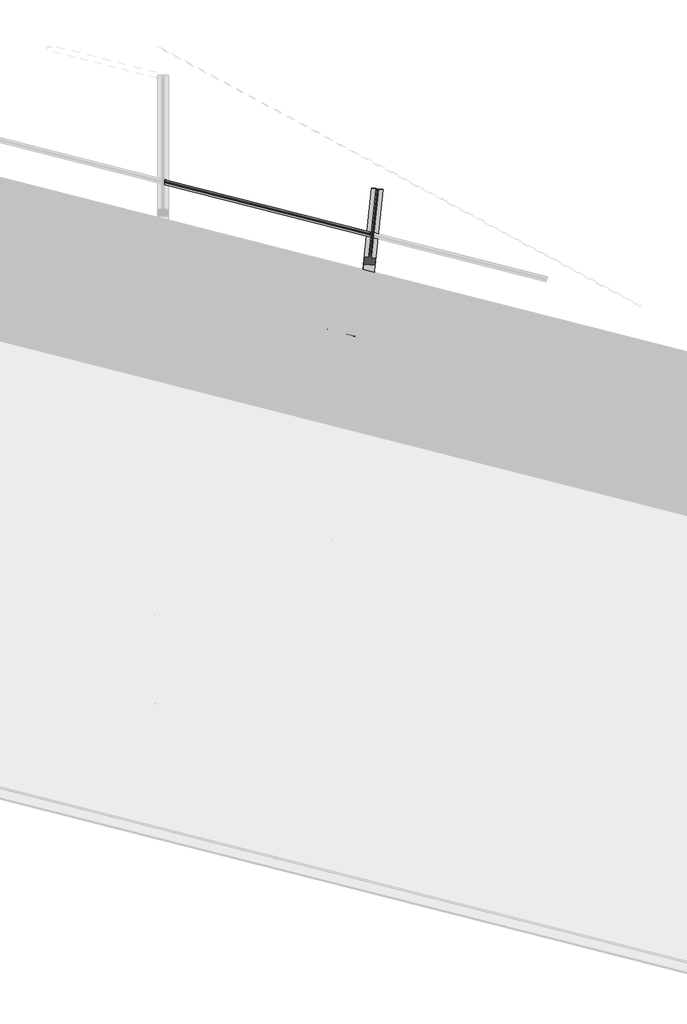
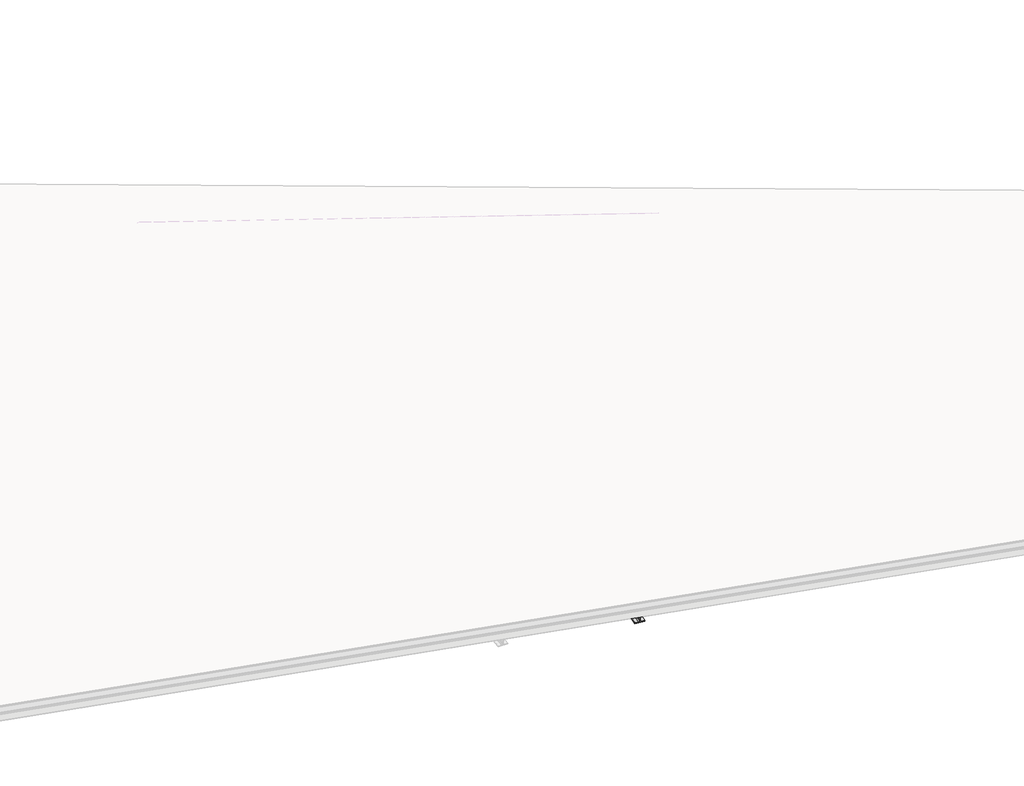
# One storey, part 8 of 10: 5 beams.
"""IFC4 building model written with IfcOpenShell, lengths in millimetres."""

from ifc_helpers import new_model, si_unit, frame, origin, place, context, project, spatial, polyline, circle_curve, ellipse_curve, transform, mapped, element, save
from ifc_brep_helpers import plane_surface, cylinder_surface, revolved_surface, advanced_brep
from components import ipe_ipe450_cd6ea38f

model = new_model("IFC4")

# Units and contexts
model_context = context("Model", 3, world=origin())
ifc_project = project(units=[si_unit("LENGTHUNIT", "METRE", prefix="MILLI")], contexts=[model_context])

# Site, building, storey
site = spatial("IfcSite", under=ifc_project)
building = spatial("IfcBuilding", under=site)
storey = spatial("IfcBuildingStorey", under=building, Name="2 Toiture batiment", Elevation=872910.0)

# Beams
placement = place(None, origin())
element("IfcBeam", 1, ObjectType="IPE : IPE160", at=placement, inside=storey, context=model_context, shape_type="AdvancedBrep", body=[
    advanced_brep(
    [(37439.4284051, 4556.8194676, 873609.2129973), (37439.4284051, 4526.6054058, 873605.6106379), (40569.0993399, 3729.8499225, 873602.4860067), (40572.1922082, 3759.2765981, 873606.0852782), (37439.4284051, 4564.9055074, 873619.2446716), (40573.0199372, 3767.1519137, 873616.1161261), (37529.7284051, 4525.92058, 873745.4026283), (37529.7284051, 4528.2674439, 873726.8803316), (37440.4284051, 4550.6817441, 873729.4934951), (37439.4284051, 4551.0584502, 873728.5306402), (40571.6243515, 3753.8738024, 873723.7172375), (40570.6319681, 3753.9986776, 873724.7266119), (40483.1615584, 3776.0860809, 873726.241838), (40482.9512846, 3774.08546, 873742.454161), (37529.7284051, 4515.570921, 873753.2362528), (40481.8918398, 3764.0055159, 873750.2888432), (37529.7284051, 4485.3568592, 873749.6338933), (40478.7989716, 3734.5788403, 873746.6895717), (37529.7284051, 4484.4262602, 873756.9785161), (40478.7037106, 3733.6724929, 873754.0342896), (37529.7284051, 4568.41111, 873766.9918542), (40487.3008359, 3815.468676, 873764.0390444), (37529.7284051, 4569.341709, 873759.6472314), (40487.3960969, 3816.3750233, 873756.6943265), (37529.7284051, 4539.1276472, 873756.044872), (40484.3032286, 3786.9483477, 873753.0950549), (37529.7284051, 4531.0416074, 873746.0131977), (40483.4754996, 3779.0730322, 873743.064207), (37529.7284051, 4533.3901615, 873727.4775619), (40483.6859965, 3781.0757761, 873726.8346797), (40571.1564062, 3758.9883727, 873725.3194536), (40572.1487896, 3758.8634976, 873724.3100792), (40573.5441522, 3772.1394858, 873616.7261721), (37439.4284051, 4570.0265348, 873619.855241), (37439.4284051, 4556.1811677, 873729.1278705), (37440.4284051, 4555.8044617, 873730.0907254), (37439.4284051, 4580.3761938, 873612.0216165), (40574.603597, 3782.21943, 873608.8914899), (37439.4284051, 4610.5902556, 873615.623976), (40577.6964652, 3811.6461056, 873612.4907615), (37439.4284051, 4611.5208546, 873608.2793531), (40577.7917262, 3812.5524529, 873605.1460435), (37439.4284051, 4527.5360048, 873598.2660151), (40569.1946009, 3730.7562699, 873595.1412887)],
    [
        (0, 1),
        (1, 2),
        (2, 3),
        (3, 0),
        (4, 0, ellipse_curve(frame((37439.4284051, 4555.687658, 873618.1456467), z_axis=(-1.0, 0.0, 0.0), x_axis=(0.0, -0.9999923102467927, -0.0039216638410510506)), 9.2870782, 9.0)),
        (3, 5, ellipse_curve(frame((40572.0763503, 3758.1742838, 873615.0180433), z_axis=(0.994521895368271, -0.10452846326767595, 0.0), x_axis=(-0.1045261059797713, -0.9944994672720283, -0.0067158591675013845)), 9.0948772, 9.0)),
        (5, 4),
        (6, 7),
        (7, 8),
        (8, 9, ellipse_curve(frame((37440.4284051, 4550.8074502, 873728.5013775), z_axis=(-0.24498715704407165, -0.9618363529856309, -0.1218692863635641), x_axis=(0.9687240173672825, -0.24795557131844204, 0.00958190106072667)), 1.0314828, 1.0)),
        (9, 4),
        (5, 10),
        (10, 11, ellipse_curve(frame((40570.6448396, 3754.1211418, 873723.7342053), z_axis=(-0.24498715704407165, -0.9618363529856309, -0.1218692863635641), x_axis=(0.9681123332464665, -0.24947586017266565, 0.022810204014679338)), 1.0104168, 1.0)),
        (11, 12),
        (12, 13),
        (13, 6),
        (14, 6, ellipse_curve(frame((37529.7284051, 4516.7027306, 873744.3036034), z_axis=(-1.0, 0.0, 0.0), x_axis=(0.0, -0.9999923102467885, -0.00392166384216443)), 9.2870782, 9.0)),
        (13, 15, ellipse_curve(frame((40482.0076977, 3765.1078302, 873741.3560782), z_axis=(0.9945218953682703, -0.10452846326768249, 0.0), x_axis=(-0.10452610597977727, -0.994499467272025, -0.006715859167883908)), 9.0948772, 9.0)),
        (15, 14),
        (16, 14),
        (15, 17),
        (17, 16),
        (18, 16),
        (17, 19),
        (19, 18),
        (20, 18),
        (19, 21),
        (21, 20),
        (22, 20),
        (21, 23),
        (23, 22),
        (24, 22),
        (23, 25),
        (25, 24),
        (26, 24, ellipse_curve(frame((37529.7284051, 4540.2594568, 873747.1122226), z_axis=(-1.0, 0.0, 0.0), x_axis=(0.0, -0.9999923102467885, -0.00392166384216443)), 9.2870782, 9.0)),
        (25, 27, ellipse_curve(frame((40484.4190865, 3788.050662, 873744.1622899), z_axis=(0.9945218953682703, -0.10452846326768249, 0.0), x_axis=(-0.10452610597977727, -0.994499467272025, -0.006715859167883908)), 9.0948772, 9.0)),
        (27, 26),
        (28, 26),
        (27, 29),
        (29, 30),
        (30, 31, ellipse_curve(frame((40571.1692777, 3759.1108369, 873724.327047), z_axis=(0.24498715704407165, 0.9618363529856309, 0.1218692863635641), x_axis=(0.9681123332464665, -0.24947586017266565, 0.022810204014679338)), 1.0104168, 1.0)),
        (31, 32),
        (32, 33),
        (33, 34),
        (34, 35, ellipse_curve(frame((37440.4284051, 4555.9301677, 873729.0986078), z_axis=(0.24498715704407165, 0.9618363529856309, 0.1218692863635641), x_axis=(0.9687240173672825, -0.24795557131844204, 0.00958190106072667)), 1.0314828, 1.0)),
        (35, 28),
        (36, 33, ellipse_curve(frame((37439.4284051, 4579.2443842, 873620.9542659), z_axis=(-1.0, 0.0, 0.0), x_axis=(0.0, -0.9999923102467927, -0.0039216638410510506)), 9.2870782, 9.0)),
        (32, 37, ellipse_curve(frame((40574.4877391, 3781.1171156, 873617.824255), z_axis=(0.994521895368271, -0.10452846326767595, 0.0), x_axis=(-0.1045261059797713, -0.9944994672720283, -0.0067158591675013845)), 9.0948772, 9.0)),
        (37, 36),
        (38, 36),
        (37, 39),
        (39, 38),
        (40, 38),
        (39, 41),
        (41, 40),
        (42, 40),
        (41, 43),
        (43, 42),
        (1, 42),
        (43, 2),
        (28, 7),
        (35, 8),
        (34, 9),
        (31, 10),
        (30, 11),
        (29, 12),
    ],
    [
        plane_surface(frame((37409.1575444, 4534.3117988, 873605.64086), z_axis=(-0.029135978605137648, -0.1183391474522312, 0.9925456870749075), x_axis=(0.9690884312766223, -0.24671172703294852, -0.0009675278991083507))),
        revolved_surface(polyline([(40575.55099624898, 3766.5075535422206, 873616.1135991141), (37439.41286689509, 4564.909463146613, 873619.2446870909)]), (37416.1224418, 4561.6209189, 873618.1689151), (0.9690884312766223, -0.24671172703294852, -0.0009675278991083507)),
        plane_surface(frame((37418.3273262, 4570.2774461, 873619.2657387), z_axis=(-0.24498715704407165, -0.9618363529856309, -0.1218692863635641), x_axis=(0.9690884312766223, -0.24671172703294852, -0.0009675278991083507))),
        revolved_surface(polyline([(40485.482343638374, 3773.441099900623, 873742.4516339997), (37529.712866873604, 4525.924535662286, 873745.4026437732)]), (37412.4163453, 4546.5681793, 873744.4207265), (0.9690884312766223, -0.24671172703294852, -0.0009675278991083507)),
        plane_surface(frame((37412.1541215, 4545.503127, 873753.3536377), z_axis=(0.029135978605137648, 0.1183391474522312, -0.9925456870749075), x_axis=(0.9690884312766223, -0.24671172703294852, -0.0009675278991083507))),
        plane_surface(frame((37404.9270003, 4517.1289546, 873749.7584938), z_axis=(-0.24498715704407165, -0.9618363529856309, -0.1218692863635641), x_axis=(0.9690884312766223, -0.24671172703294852, -0.0009675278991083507))),
        plane_surface(frame((37404.7113941, 4516.2532449, 873757.1033318), z_axis=(-0.029135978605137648, -0.1183391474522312, 0.9925456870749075), x_axis=(0.9690884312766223, -0.24671172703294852, -0.0009675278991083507))),
        plane_surface(frame((37424.800341, 4595.1238259, 873767.0966133), z_axis=(0.24498715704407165, 0.9618363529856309, 0.1218692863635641), x_axis=(0.9690884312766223, -0.24671172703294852, -0.0009675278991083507))),
        plane_surface(frame((37425.0159472, 4595.9995355, 873759.7517752), z_axis=(0.029135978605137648, 0.1183391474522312, -0.9925456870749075), x_axis=(0.9690884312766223, -0.24671172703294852, -0.0009675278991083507))),
        revolved_surface(polyline([(40487.89373246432, 3796.383931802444, 873745.257845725), (37529.712866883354, 4549.481261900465, 873748.2112630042)]), (37418.0510499, 4568.6904155, 873747.2237201), (0.9690884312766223, -0.24671172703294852, -0.0009675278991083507)),
        plane_surface(frame((37415.8461655, 4560.0338883, 873746.1268965), z_axis=(0.24498715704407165, 0.9618363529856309, 0.1218692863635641), x_axis=(0.9690884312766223, -0.24671172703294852, -0.0009675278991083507))),
        revolved_surface(polyline([(40577.96238505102, 3789.4503853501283, 873618.9198108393), (37439.41286688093, 4588.466189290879, 873622.0533063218)]), (37421.7571464, 4583.743155, 873620.9719087), (0.9690884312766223, -0.24671172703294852, -0.0009675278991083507)),
        plane_surface(frame((37422.0193702, 4584.8082073, 873612.0389975), z_axis=(-0.029135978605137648, -0.1183391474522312, 0.9925456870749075), x_axis=(0.9690884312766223, -0.24671172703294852, -0.0009675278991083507))),
        plane_surface(frame((37429.2464913, 4613.1823798, 873615.6341415), z_axis=(0.24498715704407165, 0.9618363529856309, 0.1218692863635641), x_axis=(0.9690884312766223, -0.24671172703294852, -0.0009675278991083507))),
        plane_surface(frame((37429.4620975, 4614.0580894, 873608.2893034), z_axis=(0.029135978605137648, 0.1183391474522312, -0.9925456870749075), x_axis=(0.9690884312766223, -0.24671172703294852, -0.0009675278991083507))),
        plane_surface(frame((37409.3731507, 4535.1875085, 873598.2960219), z_axis=(-0.24498715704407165, -0.9618363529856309, -0.1218692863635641), x_axis=(0.9690884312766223, -0.24671172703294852, -0.0009675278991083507))),
        plane_surface(frame((37529.7284051, 9873.6011188, 874405.0340378), z_axis=(-1.0000000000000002, 0.0, 0.0), x_axis=(0.0, -0.9932725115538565, -0.11580033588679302))),
        plane_surface(frame((37529.7284051, 9879.9238171, 874350.8013587), z_axis=(0.0, -0.11580033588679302, 0.9932725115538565), x_axis=(0.0, -0.9932725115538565, -0.11580033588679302))),
        cylinder_surface(frame((37440.4284051, 3683.1614087, 873627.3471606), z_axis=(0.0, -0.9932725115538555, -0.11580033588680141), x_axis=(0.0, -0.11580033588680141, 0.9932725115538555)), 1.0),
        plane_surface(frame((37439.4284051, 9880.0396174, 874349.8080862), z_axis=(-1.0000000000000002, 0.0, 0.0), x_axis=(0.0, -0.9932725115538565, -0.11580033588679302))),
        plane_surface(frame((41018.2134011, 8002.8847816, 873847.1205173), z_axis=(0.9945218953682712, -0.10452846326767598, 0.0), x_axis=(-0.10380628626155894, -0.9876508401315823, -0.11734595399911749))),
        cylinder_surface(frame((40430.8005706, 2423.5917995, 873565.6497603), z_axis=(-0.10380628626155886, -0.9876508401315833, -0.11734595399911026), x_axis=(0.9945218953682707, -0.10452846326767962, 0.0)), 1.0),
        plane_surface(frame((41012.5602553, 7958.6654649, 874224.296516), z_axis=(-0.012265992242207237, -0.11670312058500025, 0.9930910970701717), x_axis=(-0.10380628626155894, -0.9876508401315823, -0.11734595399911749))),
        plane_surface(frame((40923.7494501, 7967.9998566, 874224.296516), z_axis=(0.9945218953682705, -0.10452846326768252, 0.0), x_axis=(-0.10380628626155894, -0.9876508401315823, -0.11734595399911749))),
    ],
    [
        (0, [[1, 2, 3, 4]]),
        (1, [[5, -4, 6, 7]]),
        (2, [[8, 9, 10, 11, -7, 12, 13, 14, 15, 16]]),
        (3, [[17, -16, 18, 19]]),
        (4, [[20, -19, 21, 22]]),
        (5, [[23, -22, 24, 25]]),
        (6, [[26, -25, 27, 28]]),
        (7, [[29, -28, 30, 31]]),
        (8, [[32, -31, 33, 34]]),
        (9, [[35, -34, 36, 37]]),
        (10, [[38, -37, 39, 40, 41, 42, 43, 44, 45, 46]]),
        (11, [[47, -43, 48, 49]]),
        (12, [[50, -49, 51, 52]]),
        (13, [[53, -52, 54, 55]]),
        (14, [[56, -55, 57, 58]]),
        (15, [[59, -58, 60, -2]]),
        (16, [[61, -8, -17, -20, -23, -26, -29, -32, -35, -38]]),
        (17, [[-61, -46, 62, -9]]),
        (18, [[-62, -45, 63, -10]]),
        (19, [[-63, -44, -47, -50, -53, -56, -59, -1, -5, -11]]),
        (20, [[64, -12, -6, -3, -60, -57, -54, -51, -48, -42]]),
        (21, [[-64, -41, 65, -13]]),
        (22, [[-65, -40, 66, -14]]),
        (23, [[-66, -39, -36, -33, -30, -27, -24, -21, -18, -15]]),
    ],
),
])
element("IfcBeam", 2, ObjectType="IPE : IPE160", at=placement, inside=storey, context=model_context, shape_type="AdvancedBrep", body=[
    advanced_brep(
    [(40749.1610051, 5446.193803, 873806.4850068), (40749.3488969, 5447.0765683, 873799.1402521), (40749.7539391, 5448.6636193, 873799.3413613), (40749.7277494, 5448.4144408, 873806.7664034), (40752.5785321, 5475.5378266, 873810.0992882), (37439.4284051, 6319.0036687, 873826.7191398), (37439.4284051, 6288.7896069, 873823.087715), (40753.4062611, 5483.4131421, 873820.1346919), (37439.4284051, 6327.0897085, 873836.7586956), (40752.0119258, 5470.1469275, 873927.6331347), (40751.019592, 5470.2722741, 873928.6425652), (40663.5536729, 5492.4024035, 873930.1628677), (40663.3376086, 5490.3466885, 873946.8206833), (37529.7284051, 6288.1047811, 873962.5398986), (37529.7284051, 6291.9121301, 873932.4942439), (37440.4284051, 6314.3712005, 873935.1126269), (37439.4284051, 6314.7484216, 873934.1498321), (40662.2781638, 5480.2667443, 873954.649769), (37529.7284051, 6277.7551221, 873970.3636698), (40659.1852955, 5450.8400687, 873951.0338591), (37529.7284051, 6247.5410603, 873966.7322449), (40659.0900346, 5449.9337214, 873958.3781491), (37529.7284051, 6246.6104613, 873974.0760571), (40667.6871598, 5531.7299044, 873968.4291531), (37529.7284051, 6330.5953111, 873984.1701871), (40667.7824208, 5532.6362518, 873961.0848631), (37529.7284051, 6331.5259101, 873976.8263749), (40664.6895525, 5503.2095762, 873957.4689531), (37529.7284051, 6301.3118483, 873973.1949501), (40663.8618235, 5495.3342606, 873947.4335494), (37529.7284051, 6293.2258085, 873963.1553943), (40752.5363999, 5475.1369658, 873928.2260171), (40753.9304761, 5488.4007143, 873820.747558), (37439.4284051, 6332.2107359, 873837.3741914), (37439.4284051, 6319.8717545, 873934.7471341), (37440.4284051, 6319.4945334, 873935.7099289), (37529.7284051, 6297.035463, 873933.0915459), (40664.0781471, 5497.3924418, 873930.7557501), (40751.5440661, 5475.2623123, 873929.2354476), (40754.9899209, 5498.4806584, 873812.9184723), (37439.4284051, 6342.5603949, 873829.5504202), (40758.0827892, 5527.907334, 873816.5343822), (37439.4284051, 6372.7744567, 873833.181845), (40758.1780501, 5528.8136814, 873809.1900922), (37439.4284051, 6373.7050557, 873825.8380328), (37439.4284051, 6289.7202059, 873815.7439028)],
    [
        (0, 1),
        (1, 2),
        (2, 3),
        (3, 0),
        (3, 4),
        (4, 5),
        (5, 6),
        (6, 0),
        (4, 7, ellipse_curve(frame((40752.4626742, 5474.4355123, 873819.0315329), z_axis=(0.994521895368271, -0.10452846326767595, 0.0), x_axis=(-0.10446900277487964, -0.9939561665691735, -0.03372486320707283)), 9.0949804, 9.0)),
        (7, 8),
        (8, 5, ellipse_curve(frame((37439.4284051, 6317.8718591, 873835.6508033), z_axis=(-1.0, 0.0, 0.0), x_axis=(0.0, -0.9998059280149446, -0.019700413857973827)), 9.2871835, 9.0)),
        (7, 9),
        (9, 10, ellipse_curve(frame((40751.0324642, 5470.3947453, 873927.6501594), z_axis=(-0.2454470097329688, -0.9617192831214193, -0.12186790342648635), x_axis=(0.968000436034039, -0.24992258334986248, 0.022668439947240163)), 1.0104863, 1.0)),
        (10, 11),
        (11, 12),
        (12, 13),
        (13, 14),
        (14, 15),
        (15, 16, ellipse_curve(frame((37440.4284051, 6314.4969202, 873934.1205109), z_axis=(-0.2454470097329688, -0.9617192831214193, -0.12186790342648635), x_axis=(0.9686085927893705, -0.24840919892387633, 0.009500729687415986)), 1.0316067, 1.0)),
        (16, 8),
        (12, 17, ellipse_curve(frame((40662.3940217, 5481.3690587, 873945.7175244), z_axis=(0.9945218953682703, -0.10452846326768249, 0.0), x_axis=(-0.104469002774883, -0.99395616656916, -0.03372486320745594)), 9.0949804, 9.0)),
        (17, 18),
        (18, 13, ellipse_curve(frame((37529.7284051, 6278.8869317, 873961.4320063), z_axis=(-1.0, 0.0, 0.0), x_axis=(0.0, -0.9998059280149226, -0.019700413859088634)), 9.2871835, 9.0)),
        (17, 19),
        (19, 20),
        (20, 18),
        (19, 21),
        (21, 22),
        (22, 20),
        (21, 23),
        (23, 24),
        (24, 22),
        (23, 25),
        (25, 26),
        (26, 24),
        (25, 27),
        (27, 28),
        (28, 26),
        (27, 29, ellipse_curve(frame((40664.8054105, 5504.3118905, 873948.5367084), z_axis=(0.9945218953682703, -0.10452846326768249, 0.0), x_axis=(-0.104469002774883, -0.99395616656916, -0.03372486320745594)), 9.0949804, 9.0)),
        (29, 30),
        (30, 28, ellipse_curve(frame((37529.7284051, 6302.4436579, 873964.2632866), z_axis=(-1.0, 0.0, 0.0), x_axis=(0.0, -0.9998059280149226, -0.019700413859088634)), 9.2871835, 9.0)),
        (31, 32),
        (32, 33),
        (33, 34),
        (34, 35, ellipse_curve(frame((37440.4284051, 6319.6202531, 873934.7178129), z_axis=(0.2454470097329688, 0.9617192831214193, 0.12186790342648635), x_axis=(0.9686085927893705, -0.24840919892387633, 0.009500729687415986)), 1.0316067, 1.0)),
        (35, 36),
        (36, 30),
        (29, 37),
        (37, 38),
        (38, 31, ellipse_curve(frame((40751.5569384, 5475.3847836, 873928.2430418), z_axis=(0.2454470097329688, 0.9617192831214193, 0.12186790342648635), x_axis=(0.968000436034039, -0.24992258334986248, 0.022668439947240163)), 1.0104863, 1.0)),
        (32, 39, ellipse_curve(frame((40754.874063, 5497.3783441, 873821.8507169), z_axis=(0.994521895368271, -0.10452846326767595, 0.0), x_axis=(-0.10446900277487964, -0.9939561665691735, -0.03372486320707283)), 9.0949804, 9.0)),
        (39, 40),
        (40, 33, ellipse_curve(frame((37439.4284051, 6341.4285853, 873838.4820837), z_axis=(-1.0, 0.0, 0.0), x_axis=(0.0, -0.9998059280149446, -0.019700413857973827)), 9.2871835, 9.0)),
        (39, 41),
        (41, 42),
        (42, 40),
        (41, 43),
        (43, 44),
        (44, 42),
        (1, 45),
        (45, 44),
        (43, 2),
        (6, 45),
        (31, 9),
        (38, 10),
        (37, 11),
        (36, 14),
        (35, 15),
        (34, 16),
    ],
    [
        plane_surface(frame((40757.380962, 5476.9636505, 873883.5395901), z_axis=(0.9690774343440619, -0.24670892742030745, -0.004861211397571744), x_axis=(-0.02539077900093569, -0.11929260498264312, 0.992534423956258))),
        plane_surface(frame((37408.5572735, 6296.6488176, 873823.2425748), z_axis=(-0.025390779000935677, -0.11929260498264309, 0.9925344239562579), x_axis=(0.9690774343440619, -0.24670892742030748, -0.0048612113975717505))),
        revolved_surface(polyline([(40755.94213844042, 5482.767555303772, 873820.121971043), (37439.41661684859, 6327.092709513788, 873836.7587547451)]), (37415.5694432, 6323.945903, 873835.7704877), (0.9690774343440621, -0.24670892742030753, -0.004861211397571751)),
        plane_surface(frame((37417.7784663, 6332.6013766, 873836.8672989), z_axis=(-0.2454470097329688, -0.9617192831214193, -0.12186790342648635), x_axis=(0.9690774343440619, -0.24670892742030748, -0.0048612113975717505))),
        revolved_surface(polyline([(40665.87348594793, 5489.701101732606, 873946.8079625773), (37529.71661685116, 6288.107782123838, 873962.5399577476)]), (37412.3397361, 6308.7718837, 873962.0208665), (0.9690774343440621, -0.24670892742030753, -0.004861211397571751)),
        plane_surface(frame((37412.1112191, 6307.6982502, 873970.9536763), z_axis=(0.025390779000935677, 0.11929260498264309, -0.9925344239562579), x_axis=(0.9690774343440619, -0.24670892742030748, -0.0048612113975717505))),
        plane_surface(frame((37404.8705323, 6279.3275314, 873967.3585731), z_axis=(-0.2454470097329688, -0.9617192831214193, -0.12186790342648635), x_axis=(0.9690774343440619, -0.24670892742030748, -0.0048612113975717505))),
        plane_surface(frame((37404.6826406, 6278.4447661, 873974.7033279), z_axis=(-0.025390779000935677, -0.11929260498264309, 0.9925344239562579), x_axis=(0.9690774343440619, -0.24670892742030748, -0.0048612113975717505))),
        plane_surface(frame((37424.8092954, 6357.3057473, 873984.6964959), z_axis=(0.2454470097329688, 0.9617192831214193, 0.12186790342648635), x_axis=(0.9690774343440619, -0.24670892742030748, -0.0048612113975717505))),
        plane_surface(frame((37424.9971871, 6358.1885126, 873977.3517412), z_axis=(0.025390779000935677, 0.11929260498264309, -0.9925344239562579), x_axis=(0.9690774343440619, -0.24670892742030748, -0.0048612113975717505))),
        revolved_surface(polyline([(40668.28487475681, 5512.643933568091, 873949.6271465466), (37529.71661684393, 6311.664508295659, 873965.3712380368)]), (37417.9850174, 6330.8914272, 873964.8238282), (0.9690774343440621, -0.24670892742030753, -0.004861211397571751)),
        plane_surface(frame((37415.7759943, 6322.2359536, 873963.7270171), z_axis=(0.2454470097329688, 0.9617192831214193, 0.12186790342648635), x_axis=(0.9690774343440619, -0.24670892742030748, -0.0048612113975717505))),
        revolved_surface(polyline([(40758.353527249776, 5505.7103871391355, 873822.9411551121), (37439.41661684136, 6350.649435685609, 873839.5900351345)]), (37421.2147245, 6346.0654465, 873838.5734495), (0.9690774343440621, -0.24670892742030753, -0.004861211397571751)),
        plane_surface(frame((37421.4432415, 6347.13908, 873829.6406397), z_axis=(-0.025390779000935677, -0.11929260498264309, 0.9925344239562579), x_axis=(0.9690774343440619, -0.24670892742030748, -0.0048612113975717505))),
        plane_surface(frame((37428.6839282, 6375.5097988, 873833.2357428), z_axis=(0.2454470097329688, 0.9617192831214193, 0.12186790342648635), x_axis=(0.9690774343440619, -0.24670892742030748, -0.0048612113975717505))),
        plane_surface(frame((37428.87182, 6376.3925641, 873825.8909881), z_axis=(0.025390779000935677, 0.11929260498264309, -0.9925344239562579), x_axis=(0.9690774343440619, -0.24670892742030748, -0.0048612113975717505))),
        plane_surface(frame((37408.7451652, 6297.5315829, 873815.89782), z_axis=(-0.2454470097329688, -0.9617192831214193, -0.12186790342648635), x_axis=(0.9690774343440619, -0.24670892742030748, -0.0048612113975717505))),
        plane_surface(frame((41018.2134011, 8002.8847816, 873847.1205173), z_axis=(0.9945218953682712, -0.10452846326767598, 0.0), x_axis=(-0.10380628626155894, -0.9876508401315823, -0.11734595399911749))),
        cylinder_surface(frame((40430.8005706, 2423.5917995, 873565.6497603), z_axis=(-0.10380628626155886, -0.9876508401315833, -0.11734595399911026), x_axis=(0.9945218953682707, -0.10452846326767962, 0.0)), 1.0),
        plane_surface(frame((41012.5602553, 7958.6654649, 874224.296516), z_axis=(-0.012265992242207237, -0.11670312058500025, 0.9930910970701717), x_axis=(-0.10380628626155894, -0.9876508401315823, -0.11734595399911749))),
        plane_surface(frame((40923.7494501, 7967.9998566, 874224.296516), z_axis=(0.9945218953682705, -0.10452846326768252, 0.0), x_axis=(-0.10380628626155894, -0.9876508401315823, -0.11734595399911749))),
        plane_surface(frame((37529.7284051, 9873.6011188, 874405.0340378), z_axis=(-1.0000000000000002, 0.0, 0.0), x_axis=(0.0, -0.9932725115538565, -0.11580033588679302))),
        plane_surface(frame((37529.7284051, 9879.9238171, 874350.8013587), z_axis=(0.0, -0.11580033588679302, 0.9932725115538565), x_axis=(0.0, -0.9932725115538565, -0.11580033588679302))),
        cylinder_surface(frame((37440.4284051, 3683.1614087, 873627.3471606), z_axis=(0.0, -0.9932725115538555, -0.11580033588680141), x_axis=(0.0, -0.11580033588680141, 0.9932725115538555)), 1.0),
        plane_surface(frame((37439.4284051, 9880.0396174, 874349.8080862), z_axis=(-1.0000000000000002, 0.0, 0.0), x_axis=(0.0, -0.9932725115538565, -0.11580033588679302))),
    ],
    [
        (0, [[1, 2, 3, 4]]),
        (1, [[-4, 5, 6, 7, 8]]),
        (2, [[9, 10, 11, -6]]),
        (3, [[12, 13, 14, 15, 16, 17, 18, 19, 20, -10]]),
        (4, [[21, 22, 23, -16]]),
        (5, [[24, 25, 26, -22]]),
        (6, [[27, 28, 29, -25]]),
        (7, [[30, 31, 32, -28]]),
        (8, [[33, 34, 35, -31]]),
        (9, [[36, 37, 38, -34]]),
        (10, [[39, 40, 41, -37]]),
        (11, [[42, 43, 44, 45, 46, 47, -40, 48, 49, 50]]),
        (12, [[51, 52, 53, -43]]),
        (13, [[54, 55, 56, -52]]),
        (14, [[57, 58, 59, -55]]),
        (15, [[-2, 60, 61, -58, 62]]),
        (16, [[-1, -8, 63, -60]]),
        (17, [[64, -12, -9, -5, -3, -62, -57, -54, -51, -42]]),
        (18, [[-64, -50, 65, -13]]),
        (19, [[-65, -49, 66, -14]]),
        (20, [[-66, -48, -39, -36, -33, -30, -27, -24, -21, -15]]),
        (21, [[67, -17, -23, -26, -29, -32, -35, -38, -41, -47]]),
        (22, [[-67, -46, 68, -18]]),
        (23, [[-68, -45, 69, -19]]),
        (24, [[-69, -44, -53, -56, -59, -61, -63, -7, -11, -20]]),
    ],
),
])
element("IfcBeam", 3, ObjectType="IPE : IPE160", at=placement, inside=storey, context=model_context, shape_type="AdvancedBrep", body=[
    advanced_brep(
    [(37439.4284051, 8088.634096, 874033.2136943), (37439.4284051, 8058.4200342, 874029.5806032), (40930.6342222, 7169.6245551, 874011.2641914), (40933.7270904, 7199.0512307, 874014.881056), (37439.4284051, 8096.7201358, 874043.2537061), (40934.5548194, 7206.9265462, 874024.9167251), (37529.7284051, 8057.7352084, 874169.0133897), (37529.7284051, 8061.5627758, 874138.8083589), (37440.4284051, 8084.0244107, 874141.4270409), (37439.4284051, 8084.4016612, 874140.4642495), (40933.1605555, 7193.661011, 874132.4093533), (40932.1682245, 7193.7863846, 874133.418787), (40844.7025627, 7215.9189613, 874134.9393803), (40844.4861669, 7213.8600926, 874151.6227026), (37529.7284051, 8047.3855494, 874176.8366002), (40843.4267221, 7203.7801484, 874159.4514714), (37529.7284051, 8017.1714876, 874173.2035091), (40840.3338538, 7174.3534728, 874155.8346068), (37529.7284051, 8016.2408886, 874180.5472782), (40840.2385929, 7173.4471255, 874163.1788758), (37529.7284051, 8100.2257384, 874190.6460399), (40848.8357182, 7255.2433085, 874173.2325331), (37529.7284051, 8101.1563374, 874183.3022708), (40848.9309791, 7256.1496559, 874165.8882642), (37529.7284051, 8070.9422756, 874179.6691797), (40845.8381109, 7226.7229803, 874162.2713996), (37529.7284051, 8062.8562358, 874169.6291679), (40845.0103818, 7218.8476648, 874152.2357305), (37529.7284051, 8066.686144, 874139.405665), (40845.2270389, 7220.9090192, 874135.532265), (40932.6927008, 7198.7764426, 874134.0116717), (40933.6850317, 7198.651069, 874133.0022381), (40935.0790344, 7211.9141184, 874025.529753), (37439.4284051, 8101.8411632, 874043.8694843), (37439.4284051, 8089.5250294, 874141.0615556), (37440.4284051, 8089.1477789, 874142.024347), (37439.4284051, 8112.1908222, 874036.0462738), (40936.1384792, 7221.9940626, 874017.7009843), (37439.4284051, 8142.404884, 874039.6793649), (40939.2313475, 7251.4207382, 874021.3178488), (37439.4284051, 8143.335483, 874032.3355957), (40939.3266084, 7252.3270855, 874013.9735798), (37439.4284051, 8059.3506332, 874022.236834), (40930.7294831, 7170.5309025, 874003.9199225)],
    [
        (0, 1),
        (1, 2),
        (2, 3),
        (3, 0),
        (4, 0, ellipse_curve(frame((37439.4284051, 8087.5022864, 874042.1453054), z_axis=(-1.0, 0.0, 0.0), x_axis=(0.0, -0.9997877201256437, -0.020603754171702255)), 9.2871938, 9.0)),
        (3, 5, ellipse_curve(frame((40933.6112325, 7197.9489164, 874023.8132749), z_axis=(0.994521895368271, -0.10452846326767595, 0.0), x_axis=(-0.10446342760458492, -0.9939031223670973, -0.03527003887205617)), 9.0949905, 9.0)),
        (5, 4),
        (6, 7),
        (7, 8),
        (8, 9, ellipse_curve(frame((37440.4284051, 8084.1501311, 874140.4349249), z_axis=(-0.24547334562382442, -0.9617125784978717, -0.12186776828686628), x_axis=(0.9686019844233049, -0.24843515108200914, 0.009495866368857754)), 1.0316138, 1.0)),
        (9, 4),
        (5, 10),
        (10, 11, ellipse_curve(frame((40932.1810968, 7193.9088562, 874132.4263813), z_axis=(-0.24547334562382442, -0.9617125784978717, -0.12186776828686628), x_axis=(0.9679940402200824, -0.24994812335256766, 0.022659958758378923)), 1.0104903, 1.0)),
        (11, 12),
        (12, 13),
        (13, 6),
        (14, 6, ellipse_curve(frame((37529.7284051, 8048.517359, 874167.904989), z_axis=(-1.0, 0.0, 0.0), x_axis=(0.0, -0.9997877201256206, -0.02060375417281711)), 9.2871938, 9.0)),
        (13, 15, ellipse_curve(frame((40843.54258, 7204.8824628, 874150.5192524), z_axis=(0.9945218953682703, -0.10452846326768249, 0.0), x_axis=(-0.10446342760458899, -0.9939031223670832, -0.03527003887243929)), 9.0949905, 9.0)),
        (15, 14),
        (16, 14),
        (15, 17),
        (17, 16),
        (18, 16),
        (17, 19),
        (19, 18),
        (20, 18),
        (19, 21),
        (21, 20),
        (22, 20),
        (21, 23),
        (23, 22),
        (24, 22),
        (23, 25),
        (25, 24),
        (26, 24, ellipse_curve(frame((37529.7284051, 8072.0740852, 874170.7375685), z_axis=(-1.0, 0.0, 0.0), x_axis=(0.0, -0.9997877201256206, -0.02060375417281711)), 9.2871938, 9.0)),
        (25, 27, ellipse_curve(frame((40845.9539688, 7227.8252946, 874153.3391807), z_axis=(0.9945218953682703, -0.10452846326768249, 0.0), x_axis=(-0.10446342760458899, -0.9939031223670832, -0.03527003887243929)), 9.0949905, 9.0)),
        (27, 26),
        (28, 26),
        (27, 29),
        (29, 30),
        (30, 31, ellipse_curve(frame((40932.705573, 7198.8989142, 874133.019266), z_axis=(0.24547334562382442, 0.9617125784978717, 0.12186776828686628), x_axis=(0.9679940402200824, -0.24994812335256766, 0.022659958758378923)), 1.0104903, 1.0)),
        (31, 32),
        (32, 33),
        (33, 34),
        (34, 35, ellipse_curve(frame((37440.4284051, 8089.2734993, 874141.0322311), z_axis=(0.24547334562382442, 0.9617125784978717, 0.12186776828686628), x_axis=(0.9686019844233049, -0.24843515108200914, 0.009495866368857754)), 1.0316138, 1.0)),
        (35, 28),
        (36, 33, ellipse_curve(frame((37439.4284051, 8111.0590126, 874044.9778849), z_axis=(-1.0, 0.0, 0.0), x_axis=(0.0, -0.9997877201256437, -0.020603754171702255)), 9.2871938, 9.0)),
        (32, 37, ellipse_curve(frame((40936.0226213, 7220.8917482, 874026.6332032), z_axis=(0.994521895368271, -0.10452846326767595, 0.0), x_axis=(-0.10446342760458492, -0.9939031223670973, -0.03527003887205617)), 9.0949905, 9.0)),
        (37, 36),
        (38, 36),
        (37, 39),
        (39, 38),
        (40, 38),
        (39, 41),
        (41, 40),
        (42, 40),
        (41, 43),
        (43, 42),
        (1, 42),
        (43, 2),
        (28, 7),
        (35, 8),
        (34, 9),
        (31, 10),
        (30, 11),
        (29, 12),
    ],
    [
        plane_surface(frame((37408.5394197, 8066.2837902, 874029.7426605), z_axis=(-0.025176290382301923, -0.11934720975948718, 0.9925333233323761), x_axis=(0.9690763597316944, -0.24670865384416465, -0.005084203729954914))),
        revolved_surface(polyline([(40937.09100018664, 7206.280882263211, 874024.9034192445), (37439.416815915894, 8096.723086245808, 874043.2537669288)]), (37415.5542968, 8093.5801864, 874042.2705596), (0.9690763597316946, -0.2467086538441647, -0.005084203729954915)),
        plane_surface(frame((37417.7635569, 8102.2355996, 874043.3673695), z_axis=(-0.24547334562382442, -0.9617125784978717, -0.12186776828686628), x_axis=(0.9690763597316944, -0.24670865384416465, -0.005084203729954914))),
        revolved_surface(polyline([(40847.02234767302, 7213.214428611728, 874151.6093966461), (37529.71681589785, 8057.738158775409, 874169.013450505)]), (37412.3518726, 8078.3992213, 874168.5207983), (0.9690763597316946, -0.2467086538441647, -0.005084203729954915)),
        plane_surface(frame((37412.125286, 8077.3250964, 874177.4535982), z_axis=(0.025176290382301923, 0.11934720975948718, -0.9925333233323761), x_axis=(0.9690763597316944, -0.24670865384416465, -0.005084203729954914))),
        plane_surface(frame((37404.8838223, 8048.9545753, 874173.858499), z_axis=(-0.24547334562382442, -0.9617125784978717, -0.12186776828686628), x_axis=(0.9690763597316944, -0.24670865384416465, -0.005084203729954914))),
        plane_surface(frame((37404.6975178, 8048.071406, 874181.2032456), z_axis=(-0.025176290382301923, -0.11934720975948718, 0.9925333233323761), x_axis=(0.9690763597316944, -0.24670865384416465, -0.005084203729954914))),
        plane_surface(frame((37424.8263321, 8126.9318374, 874191.1964026), z_axis=(0.24547334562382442, 0.9617125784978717, 0.12186776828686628), x_axis=(0.9690763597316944, -0.24670865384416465, -0.005084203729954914))),
        plane_surface(frame((37425.0126367, 8127.8150068, 874183.851656), z_axis=(0.025176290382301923, 0.11934720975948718, -0.9925333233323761), x_axis=(0.9690763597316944, -0.24670865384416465, -0.005084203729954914))),
        revolved_surface(polyline([(40849.43373648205, 7236.157260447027, 874154.429324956), (37529.71681589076, 8081.29488494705, 874171.8460300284)]), (37417.9977596, 8100.5186106, 874171.323757), (0.9690763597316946, -0.2467086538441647, -0.005084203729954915)),
        plane_surface(frame((37415.7884995, 8091.8631974, 874170.2269471), z_axis=(0.24547334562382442, 0.9617125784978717, 0.12186776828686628), x_axis=(0.9690763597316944, -0.24670865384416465, -0.005084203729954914))),
        revolved_surface(polyline([(40939.502388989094, 7229.223714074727, 874027.7233474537), (37439.416815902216, 8120.279812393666, 874046.0863463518)]), (37421.2001837, 8115.6995757, 874045.0735182), (0.9690763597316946, -0.2467086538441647, -0.005084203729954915)),
        plane_surface(frame((37421.4267703, 8116.7737005, 874036.1407183), z_axis=(-0.025176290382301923, -0.11934720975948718, 0.9925333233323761), x_axis=(0.9690763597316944, -0.24670865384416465, -0.005084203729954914))),
        plane_surface(frame((37428.668234, 8145.1442216, 874039.7358175), z_axis=(0.24547334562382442, 0.9617125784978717, 0.12186776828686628), x_axis=(0.9690763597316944, -0.24670865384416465, -0.005084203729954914))),
        plane_surface(frame((37428.8545386, 8146.027391, 874032.3910709), z_axis=(0.025176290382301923, 0.11934720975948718, -0.9925333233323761), x_axis=(0.9690763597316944, -0.24670865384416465, -0.005084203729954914))),
        plane_surface(frame((37408.7257243, 8067.1669595, 874022.3979139), z_axis=(-0.24547334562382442, -0.9617125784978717, -0.12186776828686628), x_axis=(0.9690763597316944, -0.24670865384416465, -0.005084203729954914))),
        plane_surface(frame((37529.7284051, 9873.6011188, 874405.0340378), z_axis=(-1.0000000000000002, 0.0, 0.0), x_axis=(0.0, -0.9932725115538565, -0.11580033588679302))),
        plane_surface(frame((37529.7284051, 9879.9238171, 874350.8013587), z_axis=(0.0, -0.11580033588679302, 0.9932725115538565), x_axis=(0.0, -0.9932725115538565, -0.11580033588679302))),
        cylinder_surface(frame((37440.4284051, 3683.1614087, 873627.3471606), z_axis=(0.0, -0.9932725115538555, -0.11580033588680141), x_axis=(0.0, -0.11580033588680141, 0.9932725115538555)), 1.0),
        plane_surface(frame((37439.4284051, 9880.0396174, 874349.8080862), z_axis=(-1.0000000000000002, 0.0, 0.0), x_axis=(0.0, -0.9932725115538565, -0.11580033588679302))),
        plane_surface(frame((41018.2134011, 8002.8847816, 873847.1205173), z_axis=(0.9945218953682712, -0.10452846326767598, 0.0), x_axis=(-0.10380628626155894, -0.9876508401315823, -0.11734595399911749))),
        cylinder_surface(frame((40430.8005706, 2423.5917995, 873565.6497603), z_axis=(-0.10380628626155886, -0.9876508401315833, -0.11734595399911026), x_axis=(0.9945218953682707, -0.10452846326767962, 0.0)), 1.0),
        plane_surface(frame((41012.5602553, 7958.6654649, 874224.296516), z_axis=(-0.012265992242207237, -0.11670312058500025, 0.9930910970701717), x_axis=(-0.10380628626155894, -0.9876508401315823, -0.11734595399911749))),
        plane_surface(frame((40923.7494501, 7967.9998566, 874224.296516), z_axis=(0.9945218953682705, -0.10452846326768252, 0.0), x_axis=(-0.10380628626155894, -0.9876508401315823, -0.11734595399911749))),
    ],
    [
        (0, [[1, 2, 3, 4]]),
        (1, [[5, -4, 6, 7]]),
        (2, [[8, 9, 10, 11, -7, 12, 13, 14, 15, 16]]),
        (3, [[17, -16, 18, 19]]),
        (4, [[20, -19, 21, 22]]),
        (5, [[23, -22, 24, 25]]),
        (6, [[26, -25, 27, 28]]),
        (7, [[29, -28, 30, 31]]),
        (8, [[32, -31, 33, 34]]),
        (9, [[35, -34, 36, 37]]),
        (10, [[38, -37, 39, 40, 41, 42, 43, 44, 45, 46]]),
        (11, [[47, -43, 48, 49]]),
        (12, [[50, -49, 51, 52]]),
        (13, [[53, -52, 54, 55]]),
        (14, [[56, -55, 57, 58]]),
        (15, [[59, -58, 60, -2]]),
        (16, [[61, -8, -17, -20, -23, -26, -29, -32, -35, -38]]),
        (17, [[-61, -46, 62, -9]]),
        (18, [[-62, -45, 63, -10]]),
        (19, [[-63, -44, -47, -50, -53, -56, -59, -1, -5, -11]]),
        (20, [[64, -12, -6, -3, -60, -57, -54, -51, -48, -42]]),
        (21, [[-64, -41, 65, -13]]),
        (22, [[-65, -40, 66, -14]]),
        (23, [[-66, -39, -36, -33, -30, -27, -24, -21, -18, -15]]),
    ],
),
])
element("IfcBeam", 4, ObjectType="IPE : IPE160", at=placement, inside=storey, context=model_context, shape_type="AdvancedBrep", body=[
    advanced_brep(
    [(40447.4522038, 2072.200813, 873409.0341003), (40447.6746967, 2073.0747695, 873401.6892588), (40442.5016731, 2052.7550329, 873399.1147272), (40442.5016731, 2052.7550329, 873406.5702999), (43472.4754257, 1218.1018237, 873399.0408142), (43472.6979186, 1218.9757802, 873391.6959727), (43492.7774956, 1297.8487465, 873401.6892588), (43492.5550027, 1296.9747901, 873409.0341003), (43485.3312524, 1268.5997595, 873405.4389547), (43482.8567969, 1258.8800505, 873413.275046), (43479.0323241, 1243.8574473, 873539.5269165), (43480.9655806, 1251.4513163, 873549.5566559), (43488.1893308, 1279.8263468, 873553.1518016), (43487.9668379, 1278.9523904, 873560.4966431), (43467.887261, 1200.079424, 873550.5033569), (43468.1097539, 1200.9533805, 873543.1585154), (43475.3335041, 1229.3284111, 873546.753661), (43477.8079596, 1239.0481201, 873538.9175698), (43481.6324324, 1254.0707232, 873412.6656993), (43479.6991759, 1246.4768543, 873402.6359598), (40439.1169992, 2020.5520117, 873402.6359598), (40436.024131, 1991.1253361, 873399.0408142), (40439.9447282, 2028.4273272, 873412.6656993), (40526.738464, 1990.3350289, 873538.9175698), (40527.0195491, 1993.0093755, 873517.2452469), (40439.5480237, 2015.0861633, 873518.7592117), (40438.5813706, 2015.455846, 873517.7837585), (40525.6790191, 1980.2550847, 873546.753661), (40522.5861509, 1950.8284091, 873543.1585154), (40522.49089, 1949.9220617, 873550.5033569), (40531.0880152, 2031.7182448, 873560.4966431), (40531.1832762, 2032.6245921, 873553.1518016), (40528.0904079, 2003.1979165, 873549.5566559), (40527.2626789, 1995.322601, 873539.5269165), (40440.4689432, 2033.4148994, 873413.275046), (40439.1057998, 2020.4454561, 873518.3765901), (40440.0724528, 2020.0757734, 873519.3520432), (40527.5439783, 1997.9989856, 873517.8380784), (40441.528388, 2043.4948436, 873405.4389547), (40436.1193919, 1992.0316835, 873391.6959727)],
    [
        (0, 1),
        (1, 2),
        (2, 3),
        (3, 0),
        (4, 5),
        (5, 6),
        (6, 7),
        (7, 8),
        (8, 9, circle_curve(frame((43485.0606529, 1267.5368394, 873414.3718701), z_axis=(-0.9690888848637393, 0.24671184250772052, 0.0), x_axis=(0.24487288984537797, 0.9618654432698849, 0.12186934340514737)), 9.0)),
        (9, 10),
        (10, 11, circle_curve(frame((43481.2361801, 1252.5142363, 873540.6237406), z_axis=(-0.9690888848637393, 0.24671184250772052, 0.0), x_axis=(0.24487288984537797, 0.9618654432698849, 0.12186934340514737)), 9.0)),
        (11, 12),
        (12, 13),
        (13, 14),
        (14, 15),
        (15, 16),
        (16, 17, circle_curve(frame((43475.6041036, 1230.3913311, 873537.8207457), z_axis=(-0.9690888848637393, 0.24671184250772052, 0.0), x_axis=(0.24487288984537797, 0.9618654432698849, 0.12186934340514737)), 9.0)),
        (17, 18),
        (18, 19, circle_curve(frame((43479.4285764, 1245.4139343, 873411.5688752), z_axis=(-0.9690888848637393, 0.24671184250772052, 0.0), x_axis=(0.24487288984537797, 0.9618654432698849, 0.12186934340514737)), 9.0)),
        (19, 4),
        (19, 20),
        (20, 21),
        (21, 4),
        (18, 22),
        (22, 20, ellipse_curve(frame((40439.0011413, 2019.4496974, 873411.5688752), z_axis=(-0.9945218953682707, 0.10452846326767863, 0.0), x_axis=(-0.10452846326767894, -0.9945218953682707, 0.0)), 9.0948729, 9.0)),
        (17, 23),
        (23, 24),
        (24, 25),
        (25, 26, ellipse_curve(frame((40439.560895, 2015.2086255, 873517.7668048), z_axis=(-0.24487288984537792, -0.9618654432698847, -0.12186934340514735), x_axis=(0.9681402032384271, -0.24936462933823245, 0.02284356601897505)), 1.0103996, 1.0)),
        (26, 22),
        (16, 27),
        (27, 23, ellipse_curve(frame((40525.7948771, 1981.357399, 873537.8207457), z_axis=(-0.9945218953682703, 0.10452846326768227, 0.0), x_axis=(-0.10452846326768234, -0.9945218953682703, 0.0)), 9.0948729, 9.0)),
        (15, 28),
        (28, 27),
        (14, 29),
        (29, 28),
        (13, 30),
        (30, 29),
        (12, 31),
        (31, 30),
        (11, 32),
        (32, 31),
        (10, 33),
        (33, 32, ellipse_curve(frame((40528.2062658, 2004.3002308, 873540.6237406), z_axis=(-0.9945218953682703, 0.10452846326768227, 0.0), x_axis=(-0.10452846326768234, -0.9945218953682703, 0.0)), 9.0948729, 9.0)),
        (9, 34),
        (34, 35),
        (35, 36, ellipse_curve(frame((40440.0853241, 2020.1982356, 873518.3596364), z_axis=(0.24487288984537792, 0.9618654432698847, 0.12186934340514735), x_axis=(0.9681402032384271, -0.24936462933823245, 0.02284356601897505)), 1.0103996, 1.0)),
        (36, 37),
        (37, 33),
        (8, 38),
        (38, 34, ellipse_curve(frame((40441.4125301, 2042.3925292, 873414.3718701), z_axis=(-0.9945218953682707, 0.10452846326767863, 0.0), x_axis=(-0.10452846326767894, -0.9945218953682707, 0.0)), 9.0948729, 9.0)),
        (7, 0),
        (3, 38),
        (6, 1),
        (5, 39),
        (39, 2),
        (21, 39),
        (37, 24),
        (36, 25),
        (35, 26),
    ],
    [
        plane_surface(frame((40435.2295794, 2024.1901083, 873476.0963079), z_axis=(-0.9690888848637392, 0.2467118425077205, 0.0), x_axis=(-0.030066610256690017, -0.11810222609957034, 0.992546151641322))),
        plane_surface(frame((43480.3323783, 1248.9640853, 873476.0963079), z_axis=(0.9690888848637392, -0.2467118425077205, 0.0), x_axis=(-0.030066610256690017, -0.11810222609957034, 0.992546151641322))),
        plane_surface(frame((40427.3726268, 1993.3278467, 873399.0408142), z_axis=(-0.030066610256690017, -0.11810222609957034, 0.9925461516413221), x_axis=(0.9690888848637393, -0.24671184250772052, 0.0))),
        revolved_surface(polyline([(43481.63243240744, 1254.070723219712, 873412.6656992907), (40439.93526381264, 2028.4297366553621, 873412.6656992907)]), (40434.3257776, 2020.6399572, 873411.5688752), (0.9690888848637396, -0.24671184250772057, 0.0)),
        plane_surface(frame((40436.5296336, 2029.2967462, 873412.6656993), z_axis=(-0.24487288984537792, -0.9618654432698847, -0.12186934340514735), x_axis=(0.9690888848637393, -0.24671184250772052, 0.0))),
        revolved_surface(polyline([(43477.80795961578, 1239.048120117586, 873538.9175697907), (40526.72899963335, 1990.3374383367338, 873538.9175697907)]), (40430.5013048, 2005.6173541, 873537.8207457), (0.9690888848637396, -0.24671184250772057, 0.0)),
        plane_surface(frame((40430.2307053, 2004.554434, 873546.753661), z_axis=(0.030066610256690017, 0.11810222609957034, -0.9925461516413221), x_axis=(0.9690888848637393, -0.24671184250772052, 0.0))),
        plane_surface(frame((40423.006955, 1976.1794035, 873543.1585154), z_axis=(-0.24487288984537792, -0.9618654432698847, -0.12186934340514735), x_axis=(0.9690888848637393, -0.24671184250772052, 0.0))),
        plane_surface(frame((40422.7844621, 1975.305447, 873550.5033569), z_axis=(-0.030066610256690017, -0.11810222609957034, 0.9925461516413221), x_axis=(0.9690888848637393, -0.24671184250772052, 0.0))),
        plane_surface(frame((40442.8640391, 2054.1784133, 873560.4966431), z_axis=(0.24487288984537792, 0.9618654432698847, 0.12186934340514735), x_axis=(0.9690888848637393, -0.24671184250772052, 0.0))),
        plane_surface(frame((40443.086532, 2055.0523698, 873553.1518016), z_axis=(0.030066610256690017, 0.11810222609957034, -0.9925461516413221), x_axis=(0.9690888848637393, -0.24671184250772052, 0.0))),
        revolved_surface(polyline([(43483.4400361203, 1261.1710252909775, 873541.7205646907), (40529.140388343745, 2013.2802701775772, 873541.7205646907)]), (40436.1333812, 2027.7402593, 873540.6237406), (0.9690888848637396, -0.24671184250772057, 0.0)),
        plane_surface(frame((40433.9295252, 2019.0834703, 873539.5269165), z_axis=(0.24487288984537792, 0.9618654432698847, 0.12186934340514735), x_axis=(0.9690888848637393, -0.24671184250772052, 0.0))),
        revolved_surface(polyline([(43487.26450890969, 1276.1936283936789, 873415.4686941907), (40442.34665261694, 2051.372568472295, 873415.4686941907)]), (40439.957854, 2042.7628624, 873414.3718701), (0.9690888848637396, -0.24671184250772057, 0.0)),
        plane_surface(frame((40440.2284535, 2043.8257825, 873405.4389547), z_axis=(-0.030066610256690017, -0.11810222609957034, 0.9925461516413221), x_axis=(0.9690888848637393, -0.24671184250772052, 0.0))),
        plane_surface(frame((40447.4522038, 2072.200813, 873409.0341003), z_axis=(0.24487288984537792, 0.9618654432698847, 0.12186934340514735), x_axis=(0.9690888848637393, -0.24671184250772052, 0.0))),
        plane_surface(frame((40447.6746967, 2073.0747695, 873401.6892588), z_axis=(0.030066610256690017, 0.11810222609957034, -0.9925461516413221), x_axis=(0.9690888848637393, -0.24671184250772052, 0.0))),
        plane_surface(frame((40427.5951197, 1994.2018032, 873391.6959727), z_axis=(-0.24487288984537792, -0.9618654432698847, -0.12186934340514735), x_axis=(0.9690888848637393, -0.24671184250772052, 0.0))),
        plane_surface(frame((41151.8197628, 7937.5863197, 874278.5192899), z_axis=(-0.9945218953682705, 0.1045284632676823, 0.0), x_axis=(-0.10380628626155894, -0.9876508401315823, -0.11734595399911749))),
        plane_surface(frame((41152.489486, 7943.9583101, 874224.296516), z_axis=(-0.012265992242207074, -0.11670312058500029, 0.9930910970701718), x_axis=(-0.10380628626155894, -0.9876508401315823, -0.11734595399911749))),
        cylinder_surface(frame((40481.918996, 2418.2190365, 873565.6497603), z_axis=(-0.10380628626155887, -0.9876508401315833, -0.11734595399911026), x_axis=(-0.012265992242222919, -0.11670312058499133, 0.9930910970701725)), 1.0),
        plane_surface(frame((41062.6964248, 7953.5139334, 874223.3034249), z_axis=(-0.994521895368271, 0.10452846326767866, 0.0), x_axis=(-0.10380628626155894, -0.9876508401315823, -0.11734595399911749))),
    ],
    [
        (0, [[1, 2, 3, 4]]),
        (1, [[5, 6, 7, 8, 9, 10, 11, 12, 13, 14, 15, 16, 17, 18, 19, 20]]),
        (2, [[-20, 21, 22, 23]]),
        (3, [[-19, 24, 25, -21]]),
        (4, [[-18, 26, 27, 28, 29, 30, -24]]),
        (5, [[-17, 31, 32, -26]]),
        (6, [[-16, 33, 34, -31]]),
        (7, [[-15, 35, 36, -33]]),
        (8, [[-14, 37, 38, -35]]),
        (9, [[-13, 39, 40, -37]]),
        (10, [[-12, 41, 42, -39]]),
        (11, [[-11, 43, 44, -41]]),
        (12, [[-10, 45, 46, 47, 48, 49, -43]]),
        (13, [[-9, 50, 51, -45]]),
        (14, [[-8, 52, -4, 53, -50]]),
        (15, [[-1, -52, -7, 54]]),
        (16, [[-6, 55, 56, -2, -54]]),
        (17, [[-5, -23, 57, -55]]),
        (18, [[58, -27, -32, -34, -36, -38, -40, -42, -44, -49]]),
        (19, [[-58, -48, 59, -28]]),
        (20, [[-59, -47, 60, -29]]),
        (21, [[-60, -46, -51, -53, -3, -56, -57, -22, -25, -30]]),
    ],
),
])
ipe_ipe450_shape = ipe_ipe450_cd6ea38f(model_context)
element("IfcBeam", 5, ObjectType="IPE : IPE450", at=placement, inside=storey, context=model_context, shape_type="MappedRepresentation", body=[
    mapped(ipe_ipe450_shape, transform((40458.6829622, 2443.0089891, 873377.5583065), x_axis=(-0.10380628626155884, -0.9876508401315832, -0.1173459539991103), y_axis=(0.9945218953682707, -0.1045284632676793, 0.0), z_axis=(-0.012265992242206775, -0.11670312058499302, 0.9930910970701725))),
])

save(model, "model.ifc")
